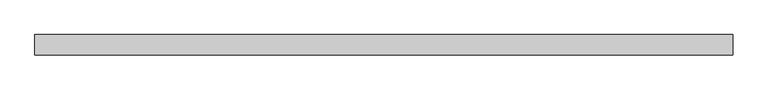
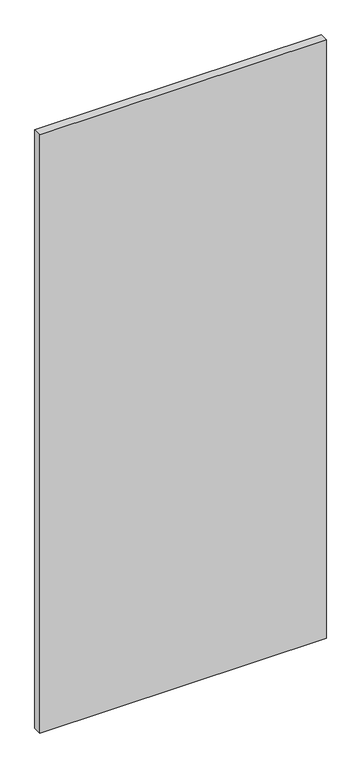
"""IFC4 building model written with IfcOpenShell, lengths in millimetres: plate geometry, Vitré."""

from ifc_helpers import new_model, si_unit, origin, origin_with_axes, place, context, project, spatial, polyline, outline, extrude, source, transform, mapped, element, save


def plate_1705736c(model_context):
    return source(origin(), model_context, "Body", "SweptSolid", [
        extrude(outline(polyline([(-689.812474, -20.0), (-689.812474, 20.0), (689.812474, 20.0), (689.812474, -20.0), (-689.812474, -20.0)])), origin_with_axes(), (0.0, 0.0, 1.0), 3042.625),
    ])


if __name__ == "__main__":
    model = new_model("IFC4")
    model_context = context("Model", 3, world=origin())
    ifc_project = project(units=[si_unit("LENGTHUNIT", "METRE", prefix="MILLI")], contexts=[model_context])
    site = spatial("IfcSite", under=ifc_project)
    building = spatial("IfcBuilding", under=site)
    placement = place(None, origin())
    plate_shape = plate_1705736c(model_context)
    element("IfcPlate", 1, ObjectType="Vitré", at=placement, inside=building, context=model_context, shape_type="MappedRepresentation", body=[
        mapped(plate_shape, transform((0.0, 0.0, 0.0), x_axis=(1.0, 0.0, 0.0), y_axis=(0.0, 1.0, 0.0), z_axis=(0.0, 0.0, 1.0))),
    ])
    save(model, "model.ifc")
